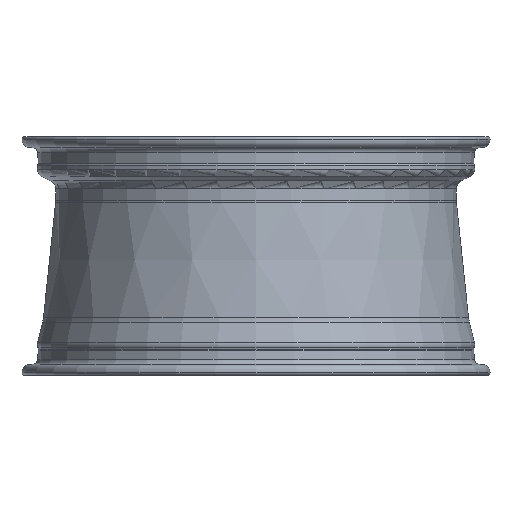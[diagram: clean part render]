
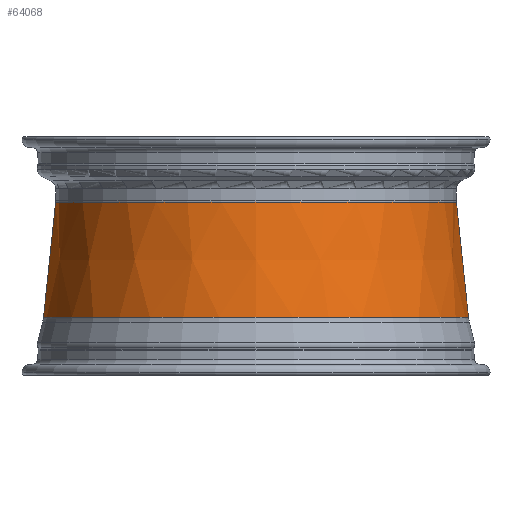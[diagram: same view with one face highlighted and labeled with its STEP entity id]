
A CAD part, front view. The second image highlights one B-rep face of the part: STEP entity #64068.
In plain terms, the highlighted conical face has half-angle 6 degrees and reference radius 230.218 mm.
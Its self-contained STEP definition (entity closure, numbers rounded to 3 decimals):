
#5739 = VERTEX_POINT ( 'NONE', #35736 ) ;
#10065 = DIRECTION ( 'NONE',  ( 0.105, 0., -0.995 ) ) ;
#10518 = ORIENTED_EDGE ( 'NONE', *, *, #72187, .F. ) ;
#14307 = DIRECTION ( 'NONE',  ( 1., 0., 0. ) ) ;
#17632 = CIRCLE ( 'NONE', #128451, 223.485 ) ;
#21436 = DIRECTION ( 'NONE',  ( 1., 0., 0. ) ) ;
#28456 = CARTESIAN_POINT ( 'NONE',  ( -236.95, 0., -68.158 ) ) ;
#34332 = DIRECTION ( 'NONE',  ( 0., 0., -1. ) ) ;
#35736 = CARTESIAN_POINT ( 'NONE',  ( -223.485, 0., 59.958 ) ) ;
#38077 = ORIENTED_EDGE ( 'NONE', *, *, #106416, .T. ) ;
#43583 = EDGE_LOOP ( 'NONE', ( #10518, #92614, #38077, #105098 ) ) ;
#44358 = CARTESIAN_POINT ( 'NONE',  ( 0., 0., 59.958 ) ) ;
#44983 = VERTEX_POINT ( 'NONE', #61131 ) ;
#49615 = DIRECTION ( 'NONE',  ( 0., 0., -1. ) ) ;
#60238 = CONICAL_SURFACE ( 'NONE', #81574, 230.218, 0.105 ) ;
#61131 = CARTESIAN_POINT ( 'NONE',  ( 223.485, 0., 59.958 ) ) ;
#63353 = EDGE_CURVE ( 'NONE', #44983, #5739, #17632, .T. ) ;
#64068 = ADVANCED_FACE ( 'NONE', ( #69630 ), #60238, .T. ) ;
#69630 = FACE_OUTER_BOUND ( 'NONE', #43583, .T. ) ;
#72187 = EDGE_CURVE ( 'NONE', #44983, #111185, #122213, .T. ) ;
#74576 = CARTESIAN_POINT ( 'NONE',  ( -230.218, 0., -4.1 ) ) ;
#75584 = VECTOR ( 'NONE', #104632, 1000. ) ;
#81574 = AXIS2_PLACEMENT_3D ( 'NONE', #131057, #49615, #121053 ) ;
#81971 = AXIS2_PLACEMENT_3D ( 'NONE', #112883, #125546, #21436 ) ;
#83273 = LINE ( 'NONE', #74576, #75584 ) ;
#86989 = VERTEX_POINT ( 'NONE', #28456 ) ;
#91842 = CARTESIAN_POINT ( 'NONE',  ( 236.95, 0., -68.158 ) ) ;
#92614 = ORIENTED_EDGE ( 'NONE', *, *, #63353, .T. ) ;
#94718 = CIRCLE ( 'NONE', #81971, 236.95 ) ;
#104632 = DIRECTION ( 'NONE',  ( -0.105, 0., -0.995 ) ) ;
#105098 = ORIENTED_EDGE ( 'NONE', *, *, #108161, .F. ) ;
#106416 = EDGE_CURVE ( 'NONE', #5739, #86989, #83273, .T. ) ;
#108161 = EDGE_CURVE ( 'NONE', #111185, #86989, #94718, .T. ) ;
#111185 = VERTEX_POINT ( 'NONE', #91842 ) ;
#112883 = CARTESIAN_POINT ( 'NONE',  ( 0., 0., -68.158 ) ) ;
#120892 = CARTESIAN_POINT ( 'NONE',  ( 230.218, 0., -4.1 ) ) ;
#121053 = DIRECTION ( 'NONE',  ( -1., 0., 0. ) ) ;
#122213 = LINE ( 'NONE', #120892, #126482 ) ;
#125546 = DIRECTION ( 'NONE',  ( 0., 0., -1. ) ) ;
#126482 = VECTOR ( 'NONE', #10065, 1000. ) ;
#128451 = AXIS2_PLACEMENT_3D ( 'NONE', #44358, #34332, #14307 ) ;
#131057 = CARTESIAN_POINT ( 'NONE',  ( 0., 0., -4.1 ) ) ;
